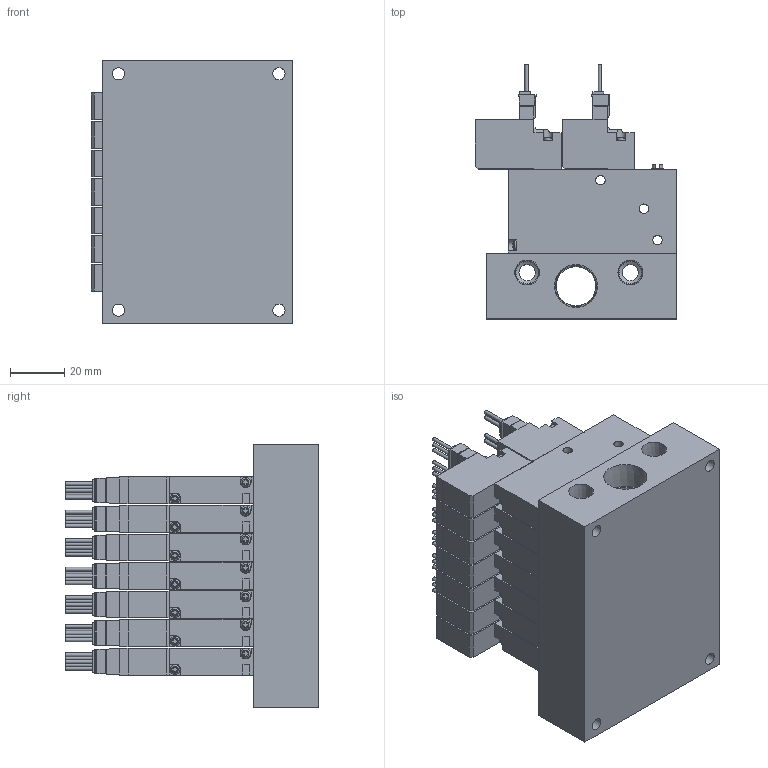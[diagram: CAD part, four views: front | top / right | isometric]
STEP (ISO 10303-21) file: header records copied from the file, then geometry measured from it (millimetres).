
FILE_DESCRIPTION(('STEP AP203'),'1');
FILE_NAME('BMPV42MZZ5W707.stp','2025-04-30T06:13:47',(' '),(' '),'Spatial InterOp 3D',' ',' ');
FILE_SCHEMA(('CONFIG_CONTROL_DESIGN'));
Length unit declared in the file: millimetre
Products named in the file (15): BMPV42MZZ5W707; VACUUM VALVE FUNCTION MPV42-W; UNIT-MPV42; VACUUM VALVE FUNCTION MPV42-A; MC4-M7
Assembly tree (22 placements, depth 2):
  BMPV42MZZ5W707
    VACUUM VALVE FUNCTION MPV42-W
    VACUUM VALVE FUNCTION MPV42-W
    VACUUM VALVE FUNCTION MPV42-W
    VACUUM VALVE FUNCTION MPV42-W
    VACUUM VALVE FUNCTION MPV42-W
    VACUUM VALVE FUNCTION MPV42-W
    UNIT-MPV42
    UNIT-MPV42  x5
    VACUUM VALVE FUNCTION MPV42-A
    VACUUM VALVE FUNCTION MPV42-A  x5
    MC4-M7
    VACUUM VALVE FUNCTION MPV42-W
    VACUUM VALVE FUNCTION MPV42-A
    UNIT-MPV42
Bounding box: 74 x 93.45 x 97 mm (x, y, z)
Volume: 342706.1 mm3; surface area: 108657 mm2
Topology: 22 solids, 22 shells, 1881 faces, 5059 edges, 3369 vertices
Faces by surface type: plane 1518, cylinder 298, cone 37, torus 14, sphere 14
Full cylindrical faces by diameter (mm): 1.4 x35, 1.8 x7, 2.2 x14, 3 x28, 3.5 x49, 4.134 x7, 4.5 x4, 5 x7, 6 x2, 8.2 x4, 14.5 x1
Entity records: 38341 total; most frequent: CARTESIAN_POINT 6890, ORIENTED_EDGE 6274, DIRECTION 6137, EDGE_CURVE 3137, LINE 2601, VECTOR 2601, VERTEX_POINT 2161, AXIS2_PLACEMENT_3D 1768
